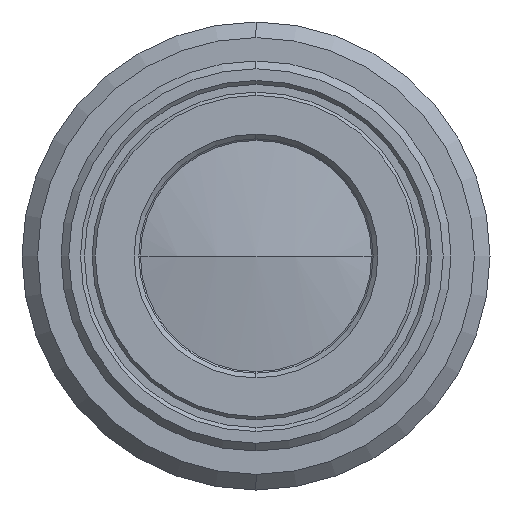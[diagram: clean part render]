
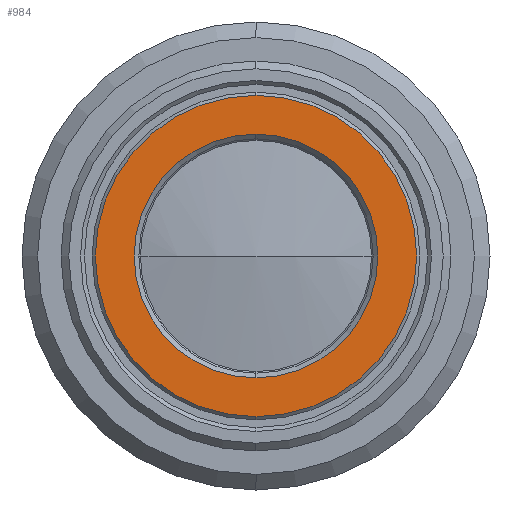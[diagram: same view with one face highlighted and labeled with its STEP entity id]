
A CAD part, left-side view. The second image highlights one B-rep face of the part: STEP entity #984.
In plain terms, the highlighted planar face has unit normal (-1, 0, 0).
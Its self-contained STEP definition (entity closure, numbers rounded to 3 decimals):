
#251 = CIRCLE ( 'NONE', #3303, 10.3 ) ;
#304 = VERTEX_POINT ( 'NONE', #612 ) ;
#309 = CARTESIAN_POINT ( 'NONE',  ( 2.233, 0.001, 0. ) ) ;
#369 = DIRECTION ( 'NONE',  ( -1., 0., 0. ) ) ;
#381 = CIRCLE ( 'NONE', #674, 7.81 ) ;
#396 = DIRECTION ( 'NONE',  ( -1., 0., 0. ) ) ;
#583 = DIRECTION ( 'NONE',  ( 0., 0., 1. ) ) ;
#612 = CARTESIAN_POINT ( 'NONE',  ( 2.233, 0.001, 10.3 ) ) ;
#674 = AXIS2_PLACEMENT_3D ( 'NONE', #309, #2199, #583 ) ;
#734 = EDGE_CURVE ( 'NONE', #1882, #2324, #1553, .T. ) ;
#755 = CARTESIAN_POINT ( 'NONE',  ( 2.233, 0.001, 0. ) ) ;
#944 = PLANE ( 'NONE',  #2538 ) ;
#963 = AXIS2_PLACEMENT_3D ( 'NONE', #755, #2648, #1016 ) ;
#984 = ADVANCED_FACE ( 'NONE', ( #2949, #1511 ), #944, .T. ) ;
#1016 = DIRECTION ( 'NONE',  ( 0., 0., 1. ) ) ;
#1244 = ORIENTED_EDGE ( 'NONE', *, *, #1705, .T. ) ;
#1328 = ORIENTED_EDGE ( 'NONE', *, *, #1412, .F. ) ;
#1340 = EDGE_LOOP ( 'NONE', ( #1244, #1602 ) ) ;
#1361 = AXIS2_PLACEMENT_3D ( 'NONE', #1978, #369, #2266 ) ;
#1412 = EDGE_CURVE ( 'NONE', #2324, #1882, #381, .T. ) ;
#1477 = DIRECTION ( 'NONE',  ( -1., 0., 0. ) ) ;
#1511 = FACE_BOUND ( 'NONE', #1821, .T. ) ;
#1553 = CIRCLE ( 'NONE', #963, 7.81 ) ;
#1602 = ORIENTED_EDGE ( 'NONE', *, *, #2001, .T. ) ;
#1705 = EDGE_CURVE ( 'NONE', #2563, #304, #251, .T. ) ;
#1742 = ORIENTED_EDGE ( 'NONE', *, *, #734, .F. ) ;
#1821 = EDGE_LOOP ( 'NONE', ( #1742, #1328 ) ) ;
#1882 = VERTEX_POINT ( 'NONE', #2738 ) ;
#1978 = CARTESIAN_POINT ( 'NONE',  ( 2.233, 0.001, 0. ) ) ;
#2001 = EDGE_CURVE ( 'NONE', #304, #2563, #2829, .T. ) ;
#2012 = CARTESIAN_POINT ( 'NONE',  ( 2.233, 0.001, 0. ) ) ;
#2199 = DIRECTION ( 'NONE',  ( -1., 0., 0. ) ) ;
#2266 = DIRECTION ( 'NONE',  ( 0., 0., 1. ) ) ;
#2286 = DIRECTION ( 'NONE',  ( 0., 0., 1. ) ) ;
#2324 = VERTEX_POINT ( 'NONE', #2512 ) ;
#2512 = CARTESIAN_POINT ( 'NONE',  ( 2.233, 0.001, -7.81 ) ) ;
#2538 = AXIS2_PLACEMENT_3D ( 'NONE', #3099, #1477, #3354 ) ;
#2563 = VERTEX_POINT ( 'NONE', #2785 ) ;
#2648 = DIRECTION ( 'NONE',  ( -1., 0., 0. ) ) ;
#2738 = CARTESIAN_POINT ( 'NONE',  ( 2.233, 0.001, 7.81 ) ) ;
#2785 = CARTESIAN_POINT ( 'NONE',  ( 2.233, 0.001, -10.3 ) ) ;
#2829 = CIRCLE ( 'NONE', #1361, 10.3 ) ;
#2949 = FACE_OUTER_BOUND ( 'NONE', #1340, .T. ) ;
#3099 = CARTESIAN_POINT ( 'NONE',  ( 2.233, 0., 0. ) ) ;
#3303 = AXIS2_PLACEMENT_3D ( 'NONE', #2012, #396, #2286 ) ;
#3354 = DIRECTION ( 'NONE',  ( 0., 0., 1. ) ) ;
